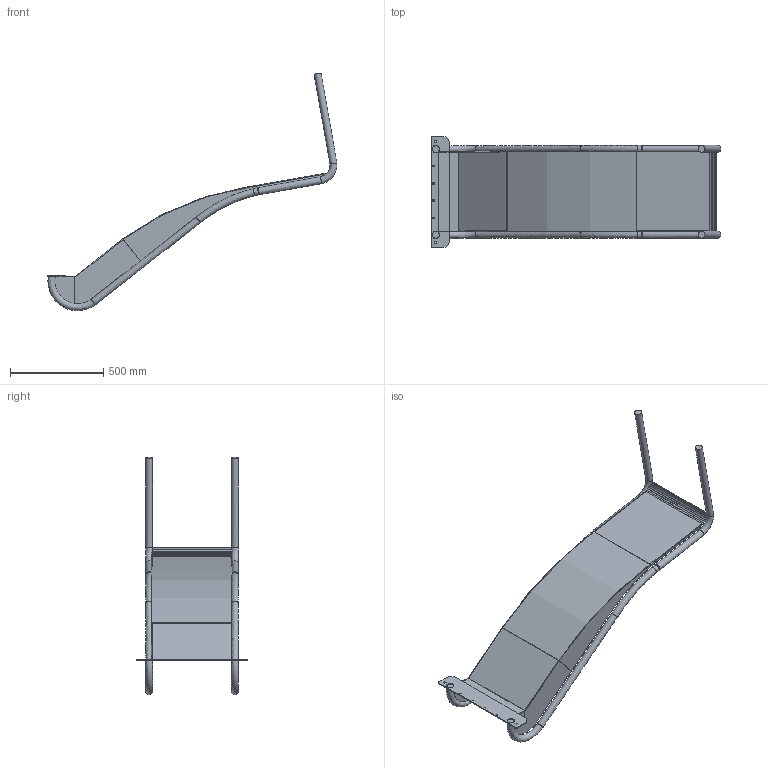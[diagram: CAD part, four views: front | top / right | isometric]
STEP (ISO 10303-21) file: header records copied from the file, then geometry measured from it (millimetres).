
FILE_DESCRIPTION(/* description */ (''),/* implementation_level */ '2;1');
FILE_NAME(/* name */ 'F:\_Inventor\- Tegningsmateriale - kunder\PlayNsafe\PlayNsafe Rutchebaner\100-700-500 (B500 H600-700 uden ører)\100-700-500.stp',/* time_stamp */ '2026-09-07T11:04:17+02:00',/* author */ ('jm'),/* organization */ (''),/* preprocessor_version */ 'ST-DEVELOPER v18.1',/* originating_system */ 'Autodesk Inventor 2022',/* authorisation */ '');
FILE_SCHEMA (('AUTOMOTIVE_DESIGN { 1 0 10303 214 3 1 1 }'));
Length unit declared in the file: millimetre
Products named in the file (8): 100-700-500; LB22002; Lb2200 venstre; bund model til step; Rutschebane B50 Øre; udløb til LB2200 model til step; monterings plade model uden ører; rør til 100-700-500
Assembly tree (10 placements, depth 2):
  100-700-500
    LB22002
    Lb2200 venstre  x2
    bund model til step
    Rutschebane B50 Øre  x2
    udløb til LB2200 model til step
    monterings plade model uden ører
    rør til 100-700-500  x2
Bounding box: 1554.18 x 595 x 1273.48 mm (x, y, z)
Volume: 7542472.9 mm3; surface area: 2684321.1 mm2
Topology: 10 solids, 10 shells, 221 faces, 519 edges, 319 vertices
Faces by surface type: plane 149, cylinder 44, bspline 24, cone 4
Full cylindrical faces by diameter (mm): 6.5 x4, 38.5 x2
Entity records: 8433 total; most frequent: CARTESIAN_POINT 3648, DIRECTION 931, ORIENTED_EDGE 918, EDGE_CURVE 459, LINE 327, VECTOR 327, AXIS2_PLACEMENT_3D 302, VERTEX_POINT 276
